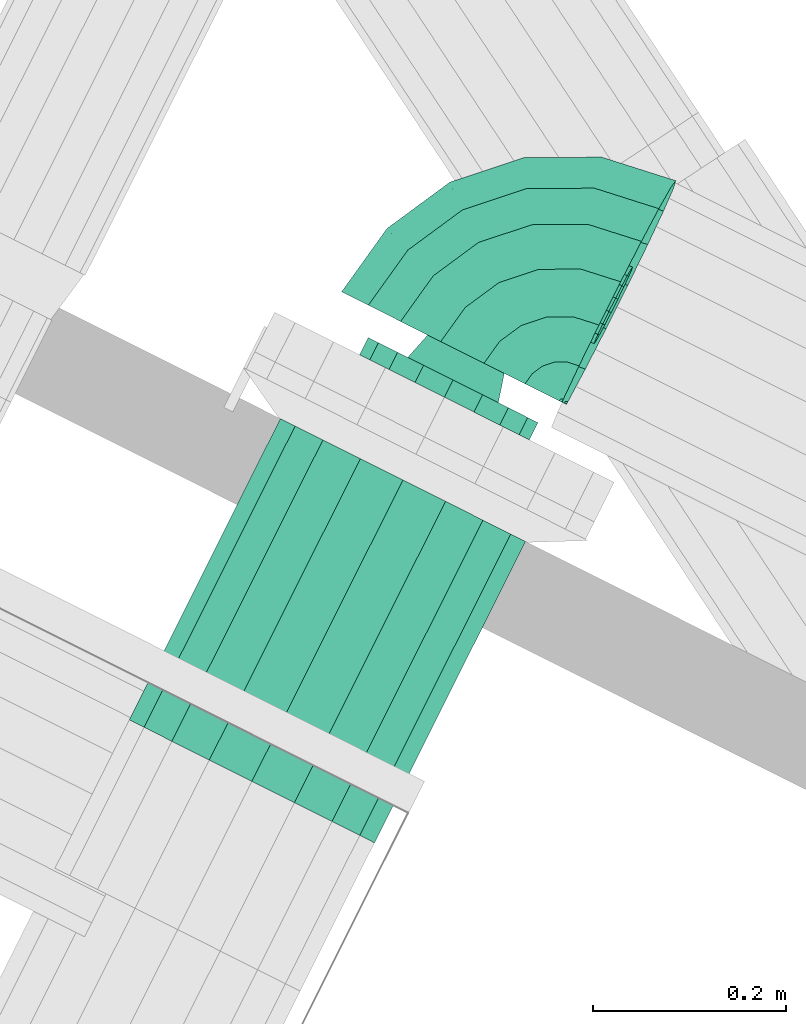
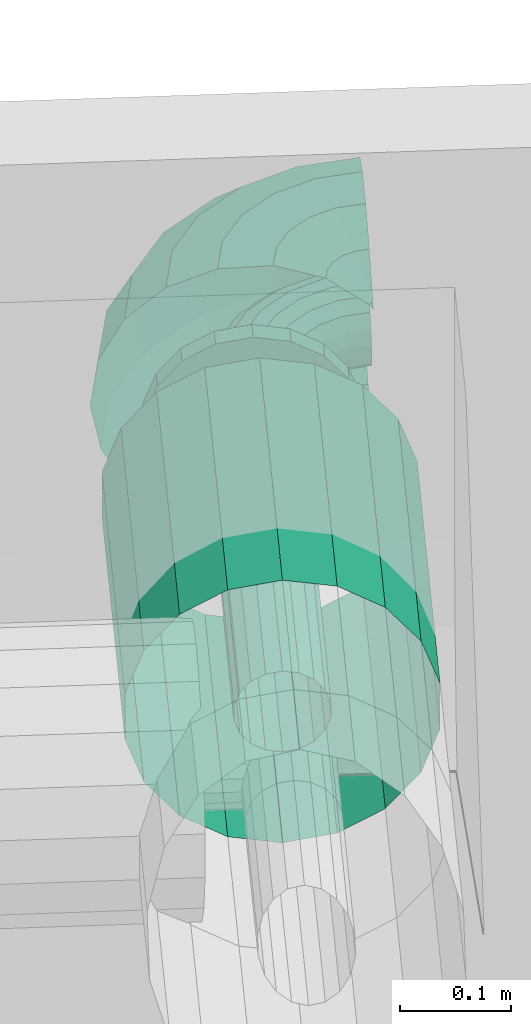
# One storey, part 161 of 206: 2 flow segments, 1 flow fitting.
"""IFC2X3 building model written with IfcOpenShell, lengths in metres."""

from ifc_helpers import new_model, si_unit, derived_unit, direction, frame, origin, place, context, subcontext, project, spatial, face_set, surface_model, source, transform, mapped, material, type_object, type_shapes, element, save


model = new_model("IFC2X3")

# Units and contexts
model_context = context("Model", 3, precision=5.2338327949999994e-05, world=origin(), true_north=direction((0.0, 1.0)))
body_context = subcontext(model_context, "Body", "Model", "MODEL_VIEW")
ifc_project = project(units=[si_unit("LENGTHUNIT", "METRE"), si_unit("AREAUNIT", "SQUARE_METRE"), si_unit("VOLUMEUNIT", "CUBIC_METRE"), si_unit("MASSUNIT", "GRAM", prefix="KILO"), si_unit("PLANEANGLEUNIT", "RADIAN"), derived_unit("THERMALTRANSMITTANCEUNIT", [(si_unit("MASSUNIT", "GRAM", prefix="KILO"), 1), (si_unit("THERMODYNAMICTEMPERATUREUNIT", "KELVIN"), -1), (si_unit("TIMEUNIT", "SECOND"), -3)])], contexts=[model_context])

# Site, building, storey
site_placement = place(None, frame((0.0, 0.0, 0.0), z_axis=(0.0, 0.0, 1.0), x_axis=(0.8939966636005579, -0.4480736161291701, 0.0)))
site = spatial("IfcSite", under=ifc_project, at=site_placement, Name="Default", CompositionType="ELEMENT")
building_placement = place(site_placement, origin())
building = spatial("IfcBuilding", under=site, at=building_placement, CompositionType="ELEMENT")
storey_placement = place(building_placement, origin())
storey = spatial("IfcBuildingStorey", under=building, at=storey_placement, Name="Erdgeschoss", CompositionType="ELEMENT", Elevation=0.0)

# Flow segments
ifc_material = material(Name="IfcSurfaceStyle #9317")
distribution_element_type_1 = type_object("IfcDistributionElementType", Name="Stahlrohr nach DIN 2448 344389:Stahlrohr nach DIN 2448 344389", material=ifc_material)
shared_shape_1 = source(origin(), body_context, "Body", "SurfaceModel", [
    surface_model("IfcFaceBasedSurfaceModel", [(31.13987201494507, 9.793419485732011, 2.269549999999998), (31.124669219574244, 9.793419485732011, 2.2722306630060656), (31.124669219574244, 10.143208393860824, 2.2722306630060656), (31.139872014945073, 10.143208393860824, 2.269549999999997), (31.111300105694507, 9.793419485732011, 2.2799493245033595), (31.111300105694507, 10.143208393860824, 2.2799493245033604), (31.101377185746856, 9.793419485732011, 2.291774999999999), (31.101377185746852, 10.143208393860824, 2.291775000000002), (31.096097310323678, 9.793419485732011, 2.3062813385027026), (31.096097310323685, 10.143208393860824, 2.3062813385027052), (31.096097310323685, 9.793419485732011, 2.321718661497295), (31.096097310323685, 10.143208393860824, 2.3217186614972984), (31.101377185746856, 9.793419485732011, 2.3362250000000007), (31.101377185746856, 10.143208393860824, 2.3362250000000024), (31.111300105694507, 9.793419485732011, 2.3480506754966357), (31.111300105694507, 10.143208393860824, 2.348050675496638), (31.124669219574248, 9.793419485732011, 2.3557693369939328), (31.12466921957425, 10.143208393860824, 2.3557693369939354), (31.139872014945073, 9.793419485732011, 2.358449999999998), (31.139872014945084, 10.143208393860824, 2.3584499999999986), (31.1550748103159, 9.793419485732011, 2.3557693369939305), (31.155074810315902, 10.143208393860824, 2.355769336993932), (31.16844392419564, 9.793419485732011, 2.3480506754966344), (31.168443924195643, 10.143208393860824, 2.348050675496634), (31.17836684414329, 9.793419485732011, 2.3362249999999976), (31.178366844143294, 10.143208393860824, 2.336224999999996), (31.183646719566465, 9.793419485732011, 2.321718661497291), (31.183646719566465, 10.143208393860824, 2.321718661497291), (31.183646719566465, 9.793419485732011, 2.3062813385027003), (31.183646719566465, 10.143208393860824, 2.3062813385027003), (31.17836684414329, 9.793419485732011, 2.291774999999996), (31.17836684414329, 10.143208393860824, 2.291774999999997), (31.16844392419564, 9.793419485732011, 2.27994932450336), (31.168443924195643, 10.143208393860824, 2.279949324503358), (31.155074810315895, 9.793419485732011, 2.272230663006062), (31.155074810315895, 10.143208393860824, 2.2722306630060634), (31.13987201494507, 9.793419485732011, 2.169549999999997), (31.09046720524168, 9.793419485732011, 2.1782614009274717), (31.090467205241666, 10.143208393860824, 2.178261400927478), (31.13987201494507, 10.143208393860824, 2.169550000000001), (31.04702134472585, 9.793419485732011, 2.2033448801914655), (31.047021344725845, 10.143208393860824, 2.20334488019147), (31.01477464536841, 9.793419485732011, 2.2417750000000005), (31.014774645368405, 10.143208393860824, 2.2417750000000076), (30.997616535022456, 9.793419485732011, 2.2889165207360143), (30.99761653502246, 10.143208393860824, 2.288916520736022), (30.99761653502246, 9.793419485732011, 2.3390834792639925), (30.997616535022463, 10.143208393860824, 2.3390834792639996), (31.014774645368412, 9.793419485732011, 2.386225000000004), (31.014774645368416, 10.143208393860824, 2.3862250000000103), (31.047021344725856, 9.793419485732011, 2.4246551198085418), (31.04702134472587, 10.143208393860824, 2.4246551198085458), (31.090467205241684, 9.793419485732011, 2.449738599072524), (31.090467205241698, 10.143208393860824, 2.449738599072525), (31.139872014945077, 9.793419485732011, 2.458449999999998), (31.13987201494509, 10.143208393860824, 2.4584499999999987), (31.189276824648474, 9.793419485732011, 2.4497385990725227), (31.18927682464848, 10.143208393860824, 2.44973859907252), (31.2327226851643, 9.793419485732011, 2.424655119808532), (31.23272268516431, 10.143208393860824, 2.424655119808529), (31.264969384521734, 9.793419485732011, 2.3862249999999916), (31.264969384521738, 10.143208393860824, 2.386224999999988), (31.282127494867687, 9.793419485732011, 2.339083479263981), (31.282127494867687, 10.143208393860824, 2.3390834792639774), (31.282127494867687, 9.793419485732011, 2.2889165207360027), (31.282127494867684, 10.143208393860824, 2.2889165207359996), (31.26496938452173, 9.793419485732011, 2.2417749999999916), (31.26496938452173, 10.143208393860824, 2.24177499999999), (31.23272268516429, 9.793419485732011, 2.2033448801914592), (31.23272268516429, 10.143208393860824, 2.203344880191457), (31.189276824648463, 9.793419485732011, 2.178261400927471), (31.189276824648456, 10.143208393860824, 2.178261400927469)], [face_set([[[0, 1, 2, 3]], [[1, 4, 5, 2]], [[4, 6, 7, 5]], [[6, 8, 9, 7]], [[8, 10, 11, 9]], [[10, 12, 13, 11]], [[12, 14, 15, 13]], [[14, 16, 17, 15]], [[16, 18, 19, 17]], [[18, 20, 21, 19]], [[20, 22, 23, 21]], [[22, 24, 25, 23]], [[24, 26, 27, 25]], [[26, 28, 29, 27]], [[28, 30, 31, 29]], [[30, 32, 33, 31]], [[32, 34, 35, 33]], [[34, 0, 3, 35]], [[36, 37, 38, 39]], [[37, 40, 41, 38]], [[40, 42, 43, 41]], [[42, 44, 45, 43]], [[44, 46, 47, 45]], [[46, 48, 49, 47]], [[48, 50, 51, 49]], [[50, 52, 53, 51]], [[52, 54, 55, 53]], [[54, 56, 57, 55]], [[56, 58, 59, 57]], [[58, 60, 61, 59]], [[60, 62, 63, 61]], [[62, 64, 65, 63]], [[64, 66, 67, 65]], [[66, 68, 69, 67]], [[68, 70, 71, 69]], [[70, 36, 39, 71]]])]),
])
type_shapes(distribution_element_type_1, [shared_shape_1])
flow_segment_1_placement = place(storey_placement, origin())
element("IfcFlowSegment", 1, at=flow_segment_1_placement, inside=storey, type_object=distribution_element_type_1, material=ifc_material, Name="Stahlrohr nach DIN 2448", ObjectType="Stahlrohr nach DIN 2448", context=body_context, shape_type="MappedRepresentation", body=[
    mapped(shared_shape_1, transform((0.0, 0.0, 0.0), scale=1.0)),
])
distribution_element_type_2 = type_object("IfcDistributionElementType", Name="Rohrbogen 344670:Rohrbogen 344670", material=ifc_material)
shared_shape_2 = source(origin(), body_context, "Body", "SurfaceModel", [
    surface_model("IfcFaceBasedSurfaceModel", [(31.10319219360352, 10.338172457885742, 2.312917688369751), (31.09544150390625, 10.289208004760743, 2.31268892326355), (31.10529206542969, 10.337343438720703, 2.328188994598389), (31.097671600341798, 10.289208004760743, 2.3279641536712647), (31.12568849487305, 10.382343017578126, 2.3135814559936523), (31.12740932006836, 10.380767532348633, 2.328841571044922), (31.160728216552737, 10.417396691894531, 2.3146154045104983), (31.1618560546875, 10.415228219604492, 2.329858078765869), (31.204879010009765, 10.439903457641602, 2.3159183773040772), (31.20526038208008, 10.43735361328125, 2.3311389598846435), (31.25382253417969, 10.447658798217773, 2.3173626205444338), (31.253373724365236, 10.44497756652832, 2.3325587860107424), (31.10499440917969, 10.289208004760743, 2.341555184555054), (31.11223582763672, 10.334958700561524, 2.3417688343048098), (31.133255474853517, 10.376230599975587, 2.342389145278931), (31.165995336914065, 10.408984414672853, 2.3433552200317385), (31.2072486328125, 10.430013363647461, 2.3445725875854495), (31.252980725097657, 10.4372594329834, 2.345922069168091), (31.11652161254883, 10.289208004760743, 2.351822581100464), (31.123186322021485, 10.331304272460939, 2.3520192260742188), (31.142527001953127, 10.369279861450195, 2.352589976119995), (31.172650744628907, 10.39941639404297, 2.353478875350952), (31.21060889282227, 10.418766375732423, 2.3545990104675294), (31.252687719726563, 10.425433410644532, 2.355840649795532), (31.13682037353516, 10.32682198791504, 2.357703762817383), (31.130864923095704, 10.289208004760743, 2.357528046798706), (31.15410071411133, 10.360752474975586, 2.3582136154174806), (31.181017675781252, 10.387681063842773, 2.3590078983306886), (31.21493421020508, 10.404969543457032, 2.3600087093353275), (31.252531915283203, 10.410927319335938, 2.3611182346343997), (31.146296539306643, 10.289208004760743, 2.3579833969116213), (31.15149622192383, 10.322051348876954, 2.358136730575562), (31.166585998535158, 10.351678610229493, 2.358582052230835), (31.190086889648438, 10.375192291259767, 2.35927561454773), (31.219703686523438, 10.390287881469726, 2.360149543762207), (31.252531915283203, 10.395489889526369, 2.3611182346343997), (31.16544188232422, 10.317567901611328, 2.3532660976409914), (31.160951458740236, 10.289208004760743, 2.353133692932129), (31.17847131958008, 10.34315238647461, 2.3536506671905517), (31.1987654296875, 10.363455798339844, 2.3542494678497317), (31.22433828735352, 10.376491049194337, 2.3550040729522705), (31.252687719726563, 10.380983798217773, 2.355840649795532), (31.173064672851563, 10.289208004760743, 2.3435637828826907), (31.176976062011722, 10.31391463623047, 2.3436793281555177), (31.188326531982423, 10.336201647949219, 2.344014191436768), (31.206006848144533, 10.353888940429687, 2.3445359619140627), (31.22828455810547, 10.365245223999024, 2.3451933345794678), (31.252980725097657, 10.369157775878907, 2.345922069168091), (31.184708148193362, 10.311528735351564, 2.3305324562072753), (31.181175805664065, 10.289208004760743, 2.3304282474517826), (31.194963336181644, 10.331664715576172, 2.3308350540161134), (31.210936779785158, 10.347643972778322, 2.3313063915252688), (31.231063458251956, 10.357903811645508, 2.3319003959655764), (31.253373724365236, 10.36143847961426, 2.3325587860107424), (31.184303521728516, 10.289208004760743, 2.31531114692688), (31.18770563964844, 10.31070087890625, 2.3154115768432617), (31.19757945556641, 10.33008923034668, 2.315702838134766), (31.212959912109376, 10.345475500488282, 2.3161567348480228), (31.23234012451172, 10.355353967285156, 2.3167286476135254), (31.25382253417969, 10.358758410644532, 2.3173626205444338), (31.182071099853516, 10.289208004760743, 2.3000359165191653), (31.185605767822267, 10.311528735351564, 2.3001401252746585), (31.19586095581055, 10.331664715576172, 2.300442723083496), (31.211832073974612, 10.347643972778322, 2.3009140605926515), (31.23196107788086, 10.357903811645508, 2.301508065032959), (31.25427134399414, 10.36143847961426, 2.3021663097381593), (31.17475061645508, 10.289208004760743, 2.286444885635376), (31.178662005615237, 10.31391463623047, 2.286560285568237), (31.190012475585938, 10.336201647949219, 2.286895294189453), (31.207692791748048, 10.353888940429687, 2.287416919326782), (31.229970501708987, 10.365245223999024, 2.2880742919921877), (31.25466434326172, 10.369157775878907, 2.2888030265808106), (31.167711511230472, 10.317567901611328, 2.276309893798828), (31.163223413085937, 10.289208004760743, 2.276177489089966), (31.18074327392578, 10.34315238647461, 2.276694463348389), (31.201037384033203, 10.363455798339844, 2.2772932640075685), (31.22661024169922, 10.376491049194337, 2.278048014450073), (31.254957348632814, 10.380983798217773, 2.2788844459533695), (31.14887777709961, 10.289208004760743, 2.270472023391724), (31.1540774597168, 10.322051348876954, 2.27062550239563), (31.169167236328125, 10.351678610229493, 2.2710706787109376), (31.19267045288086, 10.375192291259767, 2.271764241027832), (31.22228492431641, 10.390287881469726, 2.2726381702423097), (31.255113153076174, 10.395489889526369, 2.273606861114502), (31.133448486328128, 10.289208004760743, 2.2700166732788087), (31.139401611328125, 10.32682198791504, 2.2701923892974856), (31.15668427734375, 10.360752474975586, 2.270702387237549), (31.183601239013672, 10.387681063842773, 2.271496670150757), (31.217517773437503, 10.404969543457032, 2.2724974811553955), (31.255113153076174, 10.410927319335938, 2.273606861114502), (31.125455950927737, 10.331304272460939, 2.2750630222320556), (31.118791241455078, 10.289208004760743, 2.274866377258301), (31.144796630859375, 10.369279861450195, 2.2756337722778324), (31.174922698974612, 10.39941639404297, 2.2765226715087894), (31.21288084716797, 10.418766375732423, 2.2776428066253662), (31.254957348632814, 10.425433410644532, 2.2788844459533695), (31.10667802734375, 10.289208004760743, 2.2844361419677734), (31.113921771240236, 10.334958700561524, 2.284649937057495), (31.134941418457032, 10.376230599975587, 2.2852701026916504), (31.16768128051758, 10.408984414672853, 2.286236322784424), (31.208934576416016, 10.430013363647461, 2.287453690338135), (31.25466434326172, 10.4372594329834, 2.2888030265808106), (31.106189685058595, 10.337343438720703, 2.2977966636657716), (31.098569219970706, 10.289208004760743, 2.2975718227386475), (31.128304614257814, 10.380767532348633, 2.298449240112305), (31.162751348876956, 10.415228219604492, 2.299465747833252), (31.206155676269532, 10.43735361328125, 2.3007466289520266), (31.25427134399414, 10.44497756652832, 2.3021663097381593), (31.008128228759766, 10.369074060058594, 2.3101123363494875), (30.99548481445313, 10.289208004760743, 2.309739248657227), (31.014953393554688, 10.366382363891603, 2.359740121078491), (31.00273553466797, 10.289208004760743, 2.359379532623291), (31.044823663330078, 10.44112198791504, 2.3111952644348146), (31.050409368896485, 10.436001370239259, 2.360786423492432), (31.10197598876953, 10.49829873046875, 2.3128816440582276), (31.10563623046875, 10.491251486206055, 2.3624161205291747), (31.173992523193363, 10.535009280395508, 2.3150068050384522), (31.175225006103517, 10.526723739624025, 2.3644694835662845), (31.25382253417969, 10.547658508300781, 2.3173626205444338), (31.25236448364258, 10.538947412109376, 2.366745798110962), (31.02652710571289, 10.289208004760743, 2.4035463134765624), (31.03751713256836, 10.35863051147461, 2.4038707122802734), (31.069412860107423, 10.42125692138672, 2.404811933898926), (31.119091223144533, 10.47095853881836, 2.4062778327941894), (31.18169205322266, 10.502868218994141, 2.4081251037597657), (31.251083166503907, 10.513864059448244, 2.410172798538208), (31.073098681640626, 10.346755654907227, 2.437181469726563), (31.063987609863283, 10.289208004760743, 2.436912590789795), (31.099538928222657, 10.39866876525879, 2.437961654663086), (31.14072013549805, 10.439867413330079, 2.4391769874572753), (31.19260999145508, 10.466319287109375, 2.440707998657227), (31.25013206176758, 10.475433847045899, 2.442405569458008), (31.110603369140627, 10.289208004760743, 2.455453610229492), (31.11740760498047, 10.332187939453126, 2.455654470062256), (31.137155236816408, 10.370959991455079, 2.4562372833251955), (31.16791149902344, 10.401729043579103, 2.4571447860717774), (31.20666494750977, 10.421484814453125, 2.458288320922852), (31.24962744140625, 10.428291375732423, 2.459556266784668), (31.160749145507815, 10.289208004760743, 2.4569334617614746), (31.165097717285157, 10.316685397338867, 2.45706194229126), (31.177722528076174, 10.341472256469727, 2.4574343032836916), (31.197386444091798, 10.361143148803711, 2.4580145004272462), (31.222161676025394, 10.373772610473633, 2.4587455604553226), (31.24962744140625, 10.378124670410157, 2.459556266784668), (31.208376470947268, 10.289208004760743, 2.4411733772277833), (31.210420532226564, 10.302117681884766, 2.441233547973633), (31.21635040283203, 10.313763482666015, 2.4414085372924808), (31.2255893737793, 10.323004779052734, 2.4416811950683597), (31.23722819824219, 10.32893930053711, 2.442024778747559), (31.25013206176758, 10.330983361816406, 2.442405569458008), (31.247739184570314, 10.289208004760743, 2.410074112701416), (31.247904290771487, 10.290241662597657, 2.410079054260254), (31.248378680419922, 10.29117416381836, 2.4100930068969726), (31.249118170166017, 10.29191481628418, 2.410114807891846), (31.25005067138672, 10.292389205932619, 2.4101422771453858), (31.251083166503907, 10.292553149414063, 2.410172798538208), (31.25125524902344, 10.289208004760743, 2.404381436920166), (31.25124827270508, 10.290110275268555, 2.4046288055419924), (31.25638981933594, 10.289208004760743, 2.2303436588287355), (31.256396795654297, 10.290110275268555, 2.230096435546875), (31.253380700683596, 10.290241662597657, 2.2244584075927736), (31.253217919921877, 10.289208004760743, 2.2244536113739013), (31.253857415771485, 10.29117416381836, 2.2244725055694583), (31.25459690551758, 10.29191481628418, 2.2244943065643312), (31.25552708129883, 10.292389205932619, 2.224521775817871), (31.25656190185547, 10.292553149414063, 2.2245522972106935), (31.21779915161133, 10.302117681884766, 2.1911476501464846), (31.21575509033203, 10.289208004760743, 2.1910874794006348), (31.22373134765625, 10.313763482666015, 2.191322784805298), (31.232967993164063, 10.323004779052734, 2.191595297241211), (31.24460914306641, 10.32893930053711, 2.1919388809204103), (31.257513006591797, 10.330983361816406, 2.1923196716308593), (31.173490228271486, 10.316685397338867, 2.172674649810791), (31.16914165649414, 10.289208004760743, 2.1725463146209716), (31.1861150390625, 10.341472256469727, 2.1730471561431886), (31.205776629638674, 10.361143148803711, 2.173627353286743), (31.23055418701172, 10.373772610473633, 2.1743585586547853), (31.258017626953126, 10.378124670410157, 2.1751689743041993), (31.125800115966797, 10.332187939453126, 2.171267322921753), (31.118995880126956, 10.289208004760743, 2.1710666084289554), (31.145545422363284, 10.370959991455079, 2.1718499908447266), (31.176301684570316, 10.401729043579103, 2.1727576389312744), (31.215057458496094, 10.421484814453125, 2.1739013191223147), (31.258017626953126, 10.428291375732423, 2.1751689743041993), (31.071368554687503, 10.289208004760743, 2.1868266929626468), (31.080479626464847, 10.346755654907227, 2.1870955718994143), (31.106917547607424, 10.39866876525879, 2.1878757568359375), (31.148098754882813, 10.439867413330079, 2.1890909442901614), (31.1999909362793, 10.466319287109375, 2.190622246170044), (31.257513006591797, 10.475433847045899, 2.1923196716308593), (31.04299354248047, 10.35863051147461, 2.218250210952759), (31.032003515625, 10.289208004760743, 2.217925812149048), (31.074889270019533, 10.42125692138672, 2.219191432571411), (31.124569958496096, 10.47095853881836, 2.220657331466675), (31.187168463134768, 10.502868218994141, 2.222504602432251), (31.25656190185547, 10.513864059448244, 2.2245522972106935), (31.017867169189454, 10.366382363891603, 2.260973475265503), (31.005649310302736, 10.289208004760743, 2.260612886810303), (31.053325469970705, 10.436001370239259, 2.2620197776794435), (31.108550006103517, 10.491251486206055, 2.263649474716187), (31.178138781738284, 10.526723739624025, 2.265702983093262), (31.255280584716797, 10.538947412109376, 2.2679792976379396)], [face_set([[[0, 1, 2]], [[3, 2, 1]], [[4, 0, 2]], [[2, 5, 4]], [[6, 4, 5]], [[5, 7, 6]], [[8, 6, 7]], [[7, 9, 8]], [[10, 8, 9]], [[9, 11, 10]], [[2, 3, 12]], [[12, 13, 2]], [[5, 2, 14]], [[13, 14, 2]], [[7, 5, 15]], [[14, 15, 5]], [[9, 7, 16]], [[15, 16, 7]], [[11, 9, 17]], [[16, 17, 9]], [[13, 12, 18]], [[18, 19, 13]], [[14, 13, 19]], [[19, 20, 14]], [[15, 14, 20]], [[20, 21, 15]], [[16, 15, 21]], [[21, 22, 16]], [[17, 16, 22]], [[22, 23, 17]], [[19, 18, 24]], [[25, 24, 18]], [[20, 19, 26]], [[24, 26, 19]], [[21, 20, 26]], [[26, 27, 21]], [[22, 21, 28]], [[27, 28, 21]], [[23, 22, 29]], [[28, 29, 22]], [[24, 25, 30]], [[30, 31, 24]], [[26, 24, 31]], [[31, 32, 26]], [[27, 26, 33]], [[32, 33, 26]], [[28, 27, 34]], [[33, 34, 27]], [[29, 28, 34]], [[34, 35, 29]], [[31, 30, 36]], [[37, 36, 30]], [[32, 31, 38]], [[36, 38, 31]], [[33, 32, 39]], [[38, 39, 32]], [[34, 33, 40]], [[39, 40, 33]], [[35, 34, 41]], [[40, 41, 34]], [[36, 37, 42]], [[42, 43, 36]], [[38, 36, 43]], [[43, 44, 38]], [[39, 38, 44]], [[44, 45, 39]], [[40, 39, 46]], [[45, 46, 39]], [[41, 40, 46]], [[46, 47, 41]], [[43, 42, 48]], [[49, 48, 42]], [[44, 43, 50]], [[48, 50, 43]], [[45, 44, 50]], [[50, 51, 45]], [[46, 45, 52]], [[51, 52, 45]], [[47, 46, 52]], [[52, 53, 47]], [[48, 49, 54]], [[54, 55, 48]], [[50, 48, 55]], [[55, 56, 50]], [[51, 50, 56]], [[56, 57, 51]], [[52, 51, 57]], [[57, 58, 52]], [[53, 52, 58]], [[58, 59, 53]], [[55, 54, 60]], [[60, 61, 55]], [[56, 55, 62]], [[61, 62, 55]], [[57, 56, 63]], [[62, 63, 56]], [[58, 57, 64]], [[63, 64, 57]], [[59, 58, 65]], [[64, 65, 58]], [[61, 60, 66]], [[66, 67, 61]], [[62, 61, 67]], [[67, 68, 62]], [[63, 62, 68]], [[68, 69, 63]], [[64, 63, 69]], [[69, 70, 64]], [[65, 64, 71]], [[70, 71, 64]], [[67, 66, 72]], [[73, 72, 66]], [[68, 67, 74]], [[72, 74, 67]], [[69, 68, 75]], [[74, 75, 68]], [[70, 69, 75]], [[75, 76, 70]], [[71, 70, 77]], [[76, 77, 70]], [[72, 73, 78]], [[78, 79, 72]], [[74, 72, 79]], [[79, 80, 74]], [[75, 74, 80]], [[80, 81, 75]], [[76, 75, 81]], [[81, 82, 76]], [[77, 76, 82]], [[82, 83, 77]], [[79, 78, 84]], [[84, 85, 79]], [[80, 79, 86]], [[85, 86, 79]], [[81, 80, 86]], [[86, 87, 81]], [[82, 81, 87]], [[87, 88, 82]], [[83, 82, 89]], [[88, 89, 82]], [[85, 84, 90]], [[91, 90, 84]], [[86, 85, 90]], [[90, 92, 86]], [[87, 86, 92]], [[92, 93, 87]], [[88, 87, 93]], [[93, 94, 88]], [[89, 88, 94]], [[94, 95, 89]], [[90, 91, 96]], [[96, 97, 90]], [[92, 90, 98]], [[97, 98, 90]], [[93, 92, 99]], [[98, 99, 92]], [[94, 93, 100]], [[99, 100, 93]], [[95, 94, 101]], [[100, 101, 94]], [[97, 96, 102]], [[103, 102, 96]], [[98, 97, 102]], [[102, 104, 98]], [[99, 98, 104]], [[104, 105, 99]], [[100, 99, 105]], [[105, 106, 100]], [[101, 100, 106]], [[106, 107, 101]], [[102, 103, 1]], [[1, 0, 102]], [[104, 102, 4]], [[0, 4, 102]], [[105, 104, 6]], [[4, 6, 104]], [[106, 105, 8]], [[6, 8, 105]], [[107, 106, 10]], [[8, 10, 106]], [[108, 109, 110]], [[111, 110, 109]], [[112, 108, 113]], [[110, 113, 108]], [[114, 112, 115]], [[113, 115, 112]], [[116, 114, 117]], [[115, 117, 114]], [[118, 116, 119]], [[117, 119, 116]], [[110, 111, 120]], [[120, 121, 110]], [[113, 110, 121]], [[121, 122, 113]], [[115, 113, 122]], [[122, 123, 115]], [[117, 115, 123]], [[123, 124, 117]], [[119, 117, 124]], [[124, 125, 119]], [[121, 120, 126]], [[127, 126, 120]], [[122, 121, 128]], [[126, 128, 121]], [[123, 122, 129]], [[128, 129, 122]], [[124, 123, 130]], [[129, 130, 123]], [[125, 124, 131]], [[130, 131, 124]], [[126, 127, 132]], [[132, 133, 126]], [[128, 126, 133]], [[133, 134, 128]], [[129, 128, 135]], [[134, 135, 128]], [[130, 129, 136]], [[135, 136, 129]], [[131, 130, 136]], [[136, 137, 131]], [[133, 132, 138]], [[138, 139, 133]], [[134, 133, 140]], [[139, 140, 133]], [[135, 134, 140]], [[140, 141, 135]], [[136, 135, 142]], [[141, 142, 135]], [[137, 136, 142]], [[142, 143, 137]], [[139, 138, 144]], [[144, 145, 139]], [[140, 139, 146]], [[145, 146, 139]], [[141, 140, 147]], [[146, 147, 140]], [[142, 141, 148]], [[147, 148, 141]], [[143, 142, 148]], [[148, 149, 143]], [[145, 144, 150]], [[150, 151, 145]], [[146, 145, 151]], [[151, 152, 146]], [[147, 146, 153]], [[152, 153, 146]], [[148, 147, 154]], [[153, 154, 147]], [[149, 148, 154]], [[154, 155, 149]], [[156, 151, 157]], [[156, 157, 150]], [[151, 150, 157]], [[151, 156, 152]], [[153, 152, 156]], [[154, 153, 156]], [[155, 154, 156]], [[158, 159, 160]], [[161, 160, 159]], [[159, 158, 161]], [[160, 162, 158]], [[158, 162, 163]], [[164, 158, 163]], [[165, 158, 164]], [[160, 161, 166]], [[167, 166, 161]], [[162, 160, 168]], [[166, 168, 160]], [[163, 162, 168]], [[168, 169, 163]], [[164, 163, 169]], [[169, 170, 164]], [[165, 164, 171]], [[170, 171, 164]], [[166, 167, 172]], [[173, 172, 167]], [[168, 166, 172]], [[172, 174, 168]], [[169, 168, 174]], [[174, 175, 169]], [[170, 169, 175]], [[175, 176, 170]], [[171, 170, 177]], [[176, 177, 170]], [[172, 173, 178]], [[179, 178, 173]], [[174, 172, 178]], [[178, 180, 174]], [[175, 174, 181]], [[180, 181, 174]], [[176, 175, 181]], [[181, 182, 176]], [[177, 176, 183]], [[182, 183, 176]], [[178, 179, 184]], [[184, 185, 178]], [[180, 178, 186]], [[185, 186, 178]], [[181, 180, 186]], [[186, 187, 181]], [[182, 181, 187]], [[187, 188, 182]], [[183, 182, 189]], [[188, 189, 182]], [[185, 184, 190]], [[191, 190, 184]], [[186, 185, 190]], [[190, 192, 186]], [[187, 186, 192]], [[192, 193, 187]], [[188, 187, 193]], [[193, 194, 188]], [[189, 188, 194]], [[194, 195, 189]], [[190, 191, 196]], [[197, 196, 191]], [[192, 190, 198]], [[196, 198, 190]], [[193, 192, 199]], [[198, 199, 192]], [[194, 193, 200]], [[199, 200, 193]], [[195, 194, 201]], [[200, 201, 194]], [[196, 197, 109]], [[109, 108, 196]], [[198, 196, 108]], [[108, 112, 198]], [[199, 198, 112]], [[112, 114, 199]], [[200, 199, 114]], [[114, 116, 200]], [[201, 200, 116]], [[116, 118, 201]]])]),
])
type_shapes(distribution_element_type_2, [shared_shape_2])
flow_segment_2_placement = place(storey_placement, origin())
element("IfcFlowSegment", 2, at=flow_segment_2_placement, inside=storey, type_object=distribution_element_type_2, material=ifc_material, Name="Rohrbogen", ObjectType="Rohrbogen", context=body_context, shape_type="MappedRepresentation", body=[
    mapped(shared_shape_2, transform((0.0, 0.0, 0.0), scale=1.0)),
])

# Flow fitting
distribution_element_type_3 = type_object("IfcDistributionElementType", Name="Flansch 344699:Flansch 344699", material=ifc_material)
shared_shape_3 = source(origin(), body_context, "Body", "SurfaceModel", [
    surface_model("IfcFaceBasedSurfaceModel", [(31.139872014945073, 10.239208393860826, 2.414), (31.17407402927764, 10.239208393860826, 2.407969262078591), (31.17407402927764, 10.259208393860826, 2.407969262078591), (31.139872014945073, 10.259208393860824, 2.414), (31.204150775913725, 10.239208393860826, 2.390604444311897), (31.204150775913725, 10.259208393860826, 2.390604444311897), (31.22647455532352, 10.239208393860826, 2.363999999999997), (31.22647455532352, 10.259208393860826, 2.363999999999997), (31.238352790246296, 10.239208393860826, 2.331364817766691), (31.238352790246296, 10.259208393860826, 2.331364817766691), (31.238352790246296, 10.239208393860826, 2.2966351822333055), (31.238352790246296, 10.259208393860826, 2.2966351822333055), (31.22647455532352, 10.239208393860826, 2.2640000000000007), (31.22647455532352, 10.259208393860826, 2.2640000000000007), (31.204150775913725, 10.239208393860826, 2.2373955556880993), (31.204150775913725, 10.259208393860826, 2.2373955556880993), (31.174074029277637, 10.239208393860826, 2.2200307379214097), (31.174074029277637, 10.259208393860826, 2.2200307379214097), (31.139872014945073, 10.239208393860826, 2.2140000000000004), (31.139872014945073, 10.259208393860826, 2.2140000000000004), (31.105670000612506, 10.239208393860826, 2.2200307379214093), (31.105670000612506, 10.259208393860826, 2.2200307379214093), (31.075593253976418, 10.239208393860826, 2.2373955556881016), (31.075593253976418, 10.259208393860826, 2.2373955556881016), (31.05326947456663, 10.239208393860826, 2.264000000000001), (31.05326947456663, 10.259208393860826, 2.264000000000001), (31.04139123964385, 10.239208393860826, 2.296635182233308), (31.04139123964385, 10.259208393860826, 2.296635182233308), (31.04139123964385, 10.239208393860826, 2.331364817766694), (31.04139123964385, 10.259208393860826, 2.331364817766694), (31.053269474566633, 10.239208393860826, 2.364000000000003), (31.053269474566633, 10.259208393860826, 2.364000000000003), (31.075593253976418, 10.239208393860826, 2.390604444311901), (31.075593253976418, 10.259208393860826, 2.390604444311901), (31.105670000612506, 10.239208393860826, 2.407969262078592), (31.105670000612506, 10.259208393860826, 2.407969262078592), (31.13987201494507, 10.259208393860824, 2.314), (31.08737201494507, 10.259208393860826, 2.314), (31.090538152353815, 10.259208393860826, 2.3319560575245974), (31.09810267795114, 10.289208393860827, 2.3292027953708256), (31.095422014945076, 10.289208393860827, 2.314), (31.099654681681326, 10.259208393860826, 2.347746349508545), (31.105821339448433, 10.289208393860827, 2.342571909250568), (31.113622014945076, 10.259208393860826, 2.3594663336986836), (31.11764701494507, 10.289208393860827, 2.352494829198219), (31.13075548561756, 10.259208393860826, 2.3657024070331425), (31.132153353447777, 10.289208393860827, 2.357774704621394), (31.148988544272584, 10.259208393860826, 2.3657024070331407), (31.147590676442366, 10.289208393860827, 2.3577747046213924), (31.166122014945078, 10.259208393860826, 2.3594663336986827), (31.162097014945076, 10.289208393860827, 2.352494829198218), (31.180089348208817, 10.259208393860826, 2.3477463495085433), (31.173922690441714, 10.289208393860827, 2.3425719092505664), (31.189205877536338, 10.259208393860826, 2.3319560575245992), (31.181641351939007, 10.289208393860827, 2.329202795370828), (31.19237201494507, 10.259208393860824, 2.3139999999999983), (31.184322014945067, 10.289208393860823, 2.313999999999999), (31.189205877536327, 10.259208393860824, 2.2960439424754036), (31.181641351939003, 10.289208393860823, 2.2987972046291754), (31.180089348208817, 10.259208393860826, 2.280253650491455), (31.173922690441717, 10.289208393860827, 2.2854280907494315), (31.16612201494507, 10.259208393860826, 2.2685336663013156), (31.162097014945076, 10.289208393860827, 2.27550517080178), (31.148988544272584, 10.259208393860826, 2.26229759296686), (31.147590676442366, 10.289208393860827, 2.2702252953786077), (31.13075548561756, 10.259208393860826, 2.26229759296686), (31.132153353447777, 10.289208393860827, 2.2702252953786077), (31.113622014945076, 10.259208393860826, 2.2685336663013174), (31.11764701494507, 10.289208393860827, 2.2755051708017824), (31.09965468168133, 10.259208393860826, 2.280253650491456), (31.105821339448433, 10.289208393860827, 2.285428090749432), (31.090538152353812, 10.259208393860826, 2.2960439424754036), (31.098102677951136, 10.289208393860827, 2.298797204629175)], [face_set([[[0, 1, 2, 3]], [[1, 4, 5, 2]], [[4, 6, 7, 5]], [[6, 8, 9, 7]], [[8, 10, 11, 9]], [[10, 12, 13, 11]], [[12, 14, 15, 13]], [[14, 16, 17, 15]], [[16, 18, 19, 17]], [[18, 20, 21, 19]], [[20, 22, 23, 21]], [[22, 24, 25, 23]], [[24, 26, 27, 25]], [[26, 28, 29, 27]], [[28, 30, 31, 29]], [[30, 32, 33, 31]], [[32, 34, 35, 33]], [[34, 0, 3, 35]], [[36, 35, 3]], [[36, 33, 35]], [[36, 31, 33]], [[36, 29, 31]], [[36, 27, 29]], [[36, 25, 27]], [[36, 23, 25]], [[36, 21, 23]], [[36, 19, 21]], [[36, 17, 19]], [[36, 15, 17]], [[36, 13, 15]], [[36, 11, 13]], [[36, 9, 11]], [[36, 7, 9]], [[36, 5, 7]], [[36, 2, 5]], [[36, 3, 2]], [[37, 38, 39, 40]], [[38, 41, 42, 39]], [[41, 43, 44, 42]], [[43, 45, 46, 44]], [[45, 47, 48, 46]], [[47, 49, 50, 48]], [[49, 51, 52, 50]], [[51, 53, 54, 52]], [[53, 55, 56, 54]], [[55, 57, 58, 56]], [[57, 59, 60, 58]], [[59, 61, 62, 60]], [[61, 63, 64, 62]], [[63, 65, 66, 64]], [[65, 67, 68, 66]], [[67, 69, 70, 68]], [[69, 71, 72, 70]], [[71, 37, 40, 72]]])]),
])
type_shapes(distribution_element_type_3, [shared_shape_3])
flow_fitting_placement = place(storey_placement, origin())
element("IfcFlowFitting", 3, at=flow_fitting_placement, inside=storey, type_object=distribution_element_type_3, material=ifc_material, Name="Flansch", ObjectType="Flansch", context=body_context, shape_type="MappedRepresentation", body=[
    mapped(shared_shape_3, transform((0.0, 0.0, 0.0), scale=1.0)),
])

save(model, "model.ifc")
